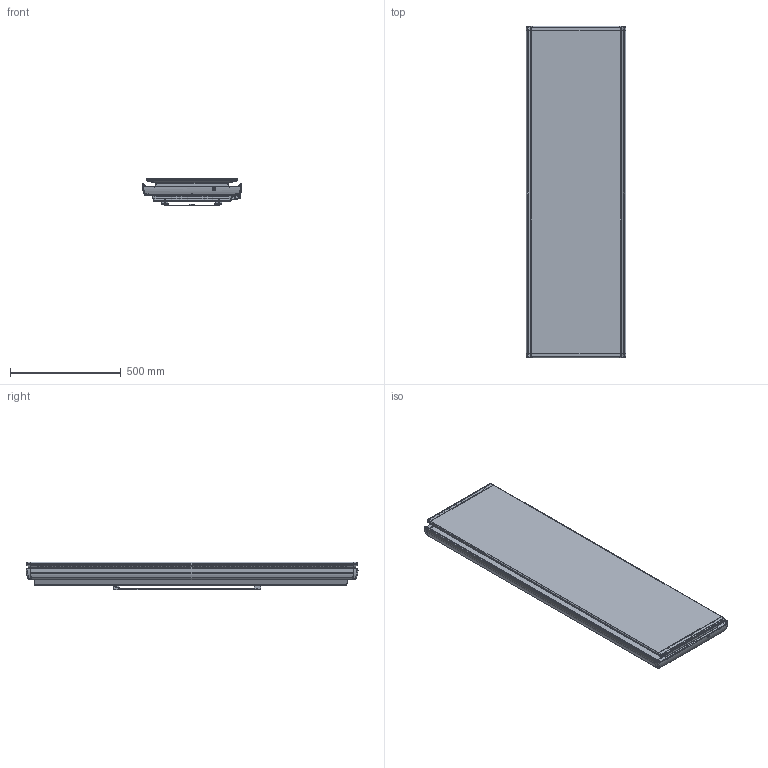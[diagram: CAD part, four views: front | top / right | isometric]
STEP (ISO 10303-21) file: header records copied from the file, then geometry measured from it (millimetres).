
FILE_DESCRIPTION(('FreeCAD Model'),'2;1');
FILE_NAME('Open CASCADE Shape Model','2026-06-08T14:23:00',(''),(''), 'Open CASCADE STEP processor 7.8','FreeCAD','Unknown');
FILE_SCHEMA(('AUTOMOTIVE_DESIGN { 1 0 10303 214 1 1 1 1 }'));
Length unit declared in the file: millimetre
Products named in the file (15): Unnamed; ICO_GR-SUPPORTO-MURAL_1500_ASM; ICO_SUPPORTO-MURALE-SUP; KLI_TRAVERSA-SUPPORTO_MAX; ICO_SUPPORTO-MURALE-INF; ICO_GR-POSTERIORE_1500W_ASM; ICO_POSTERIORE_1500W; DEK_AGGANCIO-SUPPORTO; ICO_COPERTURA-LATERALE-COMANDI; ICO_ADESIVO; ICO_GR-ANTERIORE_1500W_ASM; ICO_ANTERIORE_1500W; ICO_ESTRUSO_1500W_DX-DISPLAY; ICO_ESTRUSO_1500W_SX; ICO_TAPPO
Assembly tree (16 placements, depth 3):
  Unnamed
    ICO_GR-SUPPORTO-MURAL_1500_ASM
      ICO_SUPPORTO-MURALE-SUP
      KLI_TRAVERSA-SUPPORTO_MAX
      ICO_SUPPORTO-MURALE-INF
    ICO_GR-POSTERIORE_1500W_ASM
      ICO_POSTERIORE_1500W
      DEK_AGGANCIO-SUPPORTO  x2
    ICO_COPERTURA-LATERALE-COMANDI
    ICO_ADESIVO
    ICO_GR-ANTERIORE_1500W_ASM
      ICO_ANTERIORE_1500W
      ICO_ESTRUSO_1500W_DX-DISPLAY
      ICO_ESTRUSO_1500W_SX
      ICO_TAPPO  x2
Bounding box: 449.69 x 1500.4 x 126.2 mm (x, y, z)
Volume: 2623444.8 mm3; surface area: 4743264.5 mm2
Topology: 13 solids, 13 shells, 4235 faces, 11797 edges, 7627 vertices
Faces by surface type: plane 2733, cylinder 979, bspline 312, cone 135, torus 46, sphere 30
Entity records: 126826 total; most frequent: CARTESIAN_POINT 35333, ORIENTED_EDGE 19840, DIRECTION 17154, EDGE_CURVE 9920, LINE 7132, VECTOR 7132, VERTEX_POINT 6425, AXIS2_PLACEMENT_3D 5011
